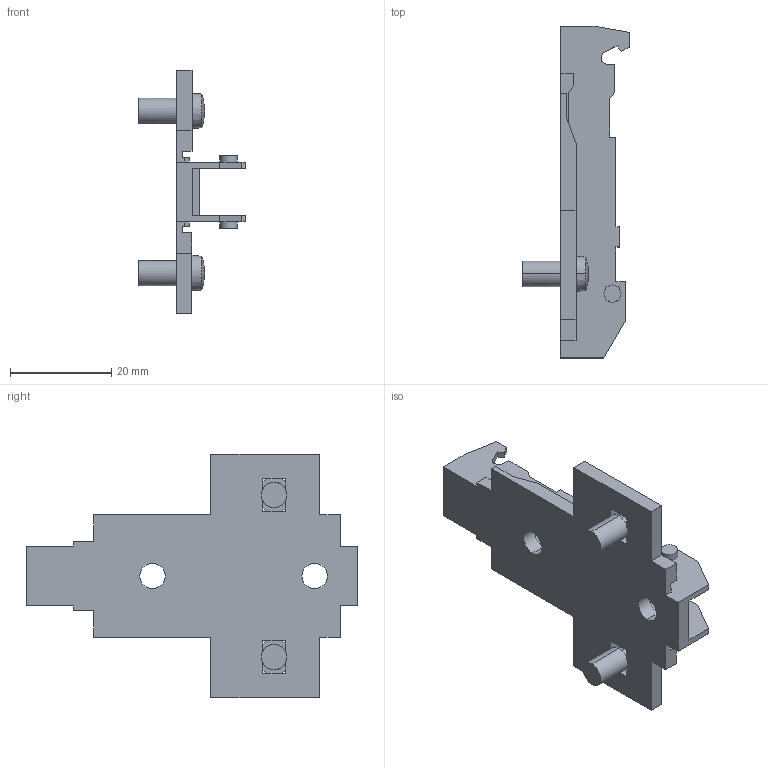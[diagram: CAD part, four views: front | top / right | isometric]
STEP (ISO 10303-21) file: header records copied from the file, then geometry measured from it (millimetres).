
FILE_DESCRIPTION (( 'STEP AP214' ), '1' );
FILE_NAME ('1D_Kreuzmontageplatte 28_32_5mm_Dübel_kurz_3.step', '2010-11-18T10:20:27', ( 'grass' ), ( '' ), 'SwSTEP 2.0', 'SolidWorks 2010', '' );
FILE_SCHEMA (( 'AUTOMOTIVE_DESIGN' ));
Length unit declared in the file: millimetre
Products named in the file (1): 1D_Kreuzmontageplatte 28_32_5mm_Dübel_kurz_3
Bounding box: 21 x 65.5 x 48 mm (x, y, z)
Volume: 6945.4 mm3; surface area: 7458 mm2
Topology: 1 solids, 1 shells, 126 faces, 388 edges, 250 vertices
Faces by surface type: plane 96, cylinder 22, sphere 4, cone 4
Entity records: 4374 total; most frequent: ORIENTED_EDGE 776, CARTESIAN_POINT 765, DIRECTION 722, EDGE_CURVE 388, LINE 308, VECTOR 308, VERTEX_POINT 250, AXIS2_PLACEMENT_3D 207
